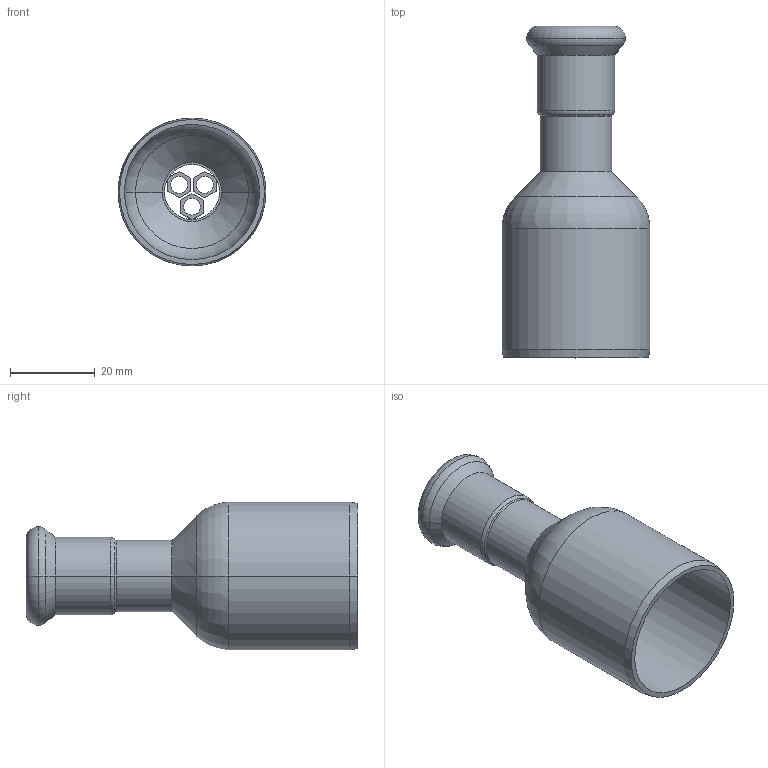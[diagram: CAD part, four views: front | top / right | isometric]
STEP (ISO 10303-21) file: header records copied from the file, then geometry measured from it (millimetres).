
FILE_DESCRIPTION(('OneSpaceDesigner STEP Export'),'2;1');
FILE_NAME('R2707 15x35.stp','2010-06-09T12:51:49',(''),(''),'OneSpace Designer STEP processor for AP214 (Solid Model)','OneSpace Modeling 15.00A 14-Mar-2007 (C) CoCreate Software GmbH','');
FILE_SCHEMA(('AUTOMOTIVE_DESIGN { 1 0 10303 214 1 1 1 1 }'));
Length unit declared in the file: millimetre
Products named in the file (2): R2707_15x35
Assembly tree (1 placements, depth 2):
  R2707_15x35
    R2707_15x35
Bounding box: 35 x 78.5 x 35 mm (x, y, z)
Volume: 9987 mm3; surface area: 13528.5 mm2
Topology: 1 solids, 1 shells, 77 faces, 181 edges, 112 vertices
Faces by surface type: plane 32, cylinder 25, cone 10, torus 10
Entity records: 1978 total; most frequent: ORIENTED_EDGE 362, CARTESIAN_POINT 314, DIRECTION 303, EDGE_CURVE 181, VERTEX_POINT 112, AXIS2_PLACEMENT_3D 101, VECTOR 101, LINE 101
